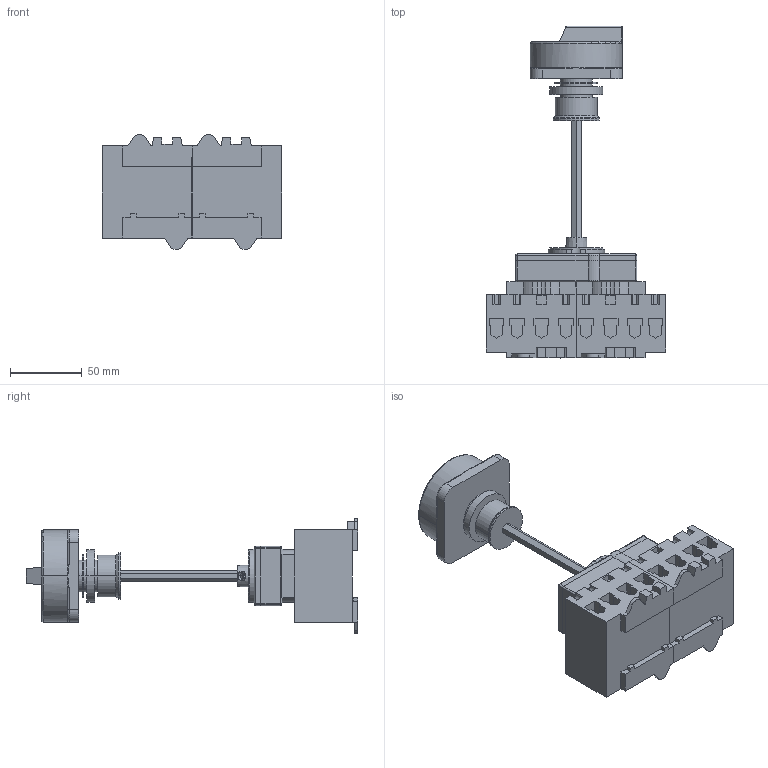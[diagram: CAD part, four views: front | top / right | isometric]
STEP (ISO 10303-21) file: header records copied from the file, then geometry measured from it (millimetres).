
FILE_DESCRIPTION (( 'STEP AP203' ), '1' );
FILE_NAME ('LTS63_80 VZVH4 A8.STEP', '2014-04-02T07:30:58', ( '' ), ( '' ), 'SwSTEP 2.0', 'SolidWorks 2014', '' );
FILE_SCHEMA (( 'CONFIG_CONTROL_DESIGN' ));
Length unit declared in the file: millimetre
Products named in the file (10): Zwischenring; TK2Z H4; LTS63_80 VZVH4 A8; LTS63 VZV A4_Schaltkörper L_ohne zwischenring; LTS63 VZV A4_Schaltkörper_ohne zwischenring; HPT I Umschaltwerk LT; HPT II Umschaltwerk LT; 8184_7 CP8184-1; HTP Umschaltwerk LT; Achse TK-LT_100_300
Assembly tree (9 placements, depth 3):
  LTS63_80 VZVH4 A8
    LTS63 VZV A4_Schaltkörper L_ohne zwischenring
    LTS63 VZV A4_Schaltkörper_ohne zwischenring
    HTP Umschaltwerk LT
      HPT I Umschaltwerk LT
      HPT II Umschaltwerk LT
    8184_7 CP8184-1
    Achse TK-LT_100_300
    Zwischenring
    TK2Z H4
Bounding box: 125 x 230.7 x 80 mm (x, y, z)
Volume: 485606.9 mm3; surface area: 108964.8 mm2
Topology: 8 solids, 8 shells, 626 faces, 1649 edges, 1049 vertices
Faces by surface type: plane 378, cylinder 152, cone 53, bspline 18, torus 17, sphere 8
Entity records: 20870 total; most frequent: CARTESIAN_POINT 4311, ORIENTED_EDGE 3262, DIRECTION 3178, EDGE_CURVE 1631, LINE 1140, VECTOR 1140, VERTEX_POINT 1049, AXIS2_PLACEMENT_3D 1019
